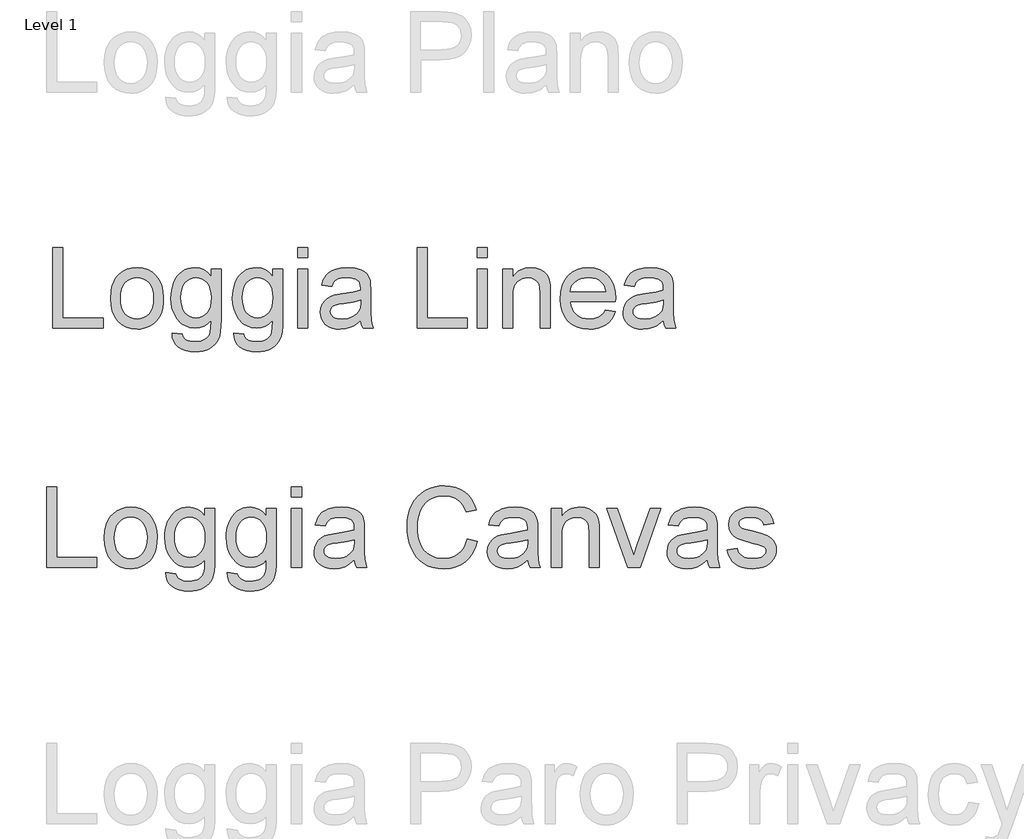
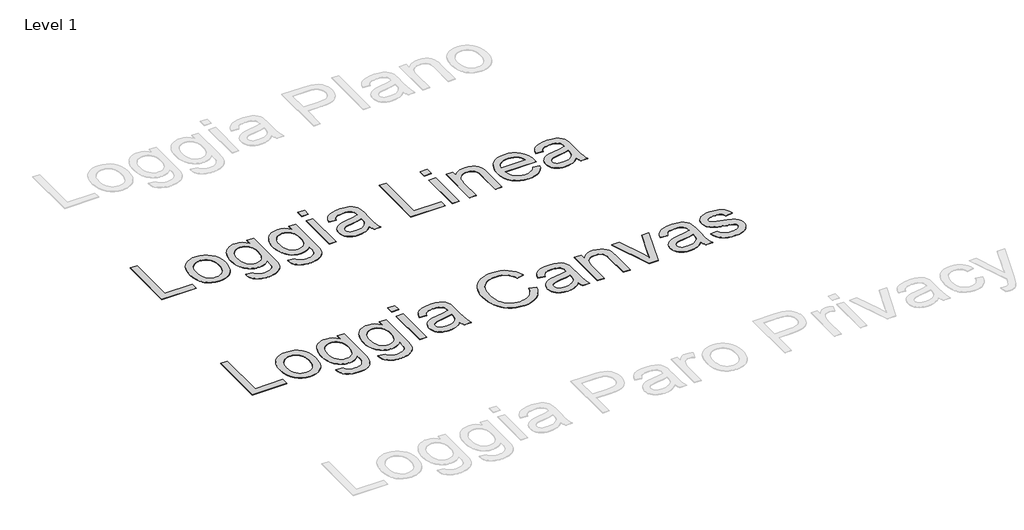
# One storey, part 11 of 80: 2 proxies.
"""IFC4 building model written with IfcOpenShell, lengths in millimetres."""

from ifc_helpers import new_model, si_unit, origin, origin_with_axes, place, context, project, spatial, polyline, outline, extrude, element, save

model = new_model("IFC4")

# Units and contexts
model_context = context("Model", 3, world=origin())
ifc_project = project(units=[si_unit("LENGTHUNIT", "METRE", prefix="MILLI")], contexts=[model_context])

# Site, building, storey
site = spatial("IfcSite", under=ifc_project)
building = spatial("IfcBuilding", under=site)
storey = spatial("IfcBuildingStorey", under=building, Name="Level 1", Elevation=0.0)

# Proxies
placement = place(None, origin())
element("IfcBuildingElementProxy", 1, Name="800mm Arial", ObjectType="800mm Arial", at=placement, inside=storey, context=model_context, shape_type="SweptSolid", body=[
    extrude(outline(polyline([(369965.6331768, -59119.2375007), (369965.6331768, -58319.8488024), (370065.556764, -58319.8488024), (370065.556764, -59019.3139134), (370465.2511132, -59019.3139134), (370465.2511132, -59119.2375007), (369965.6331768, -59119.2375007)])), origin_with_axes(), (0.0, 0.0, 1.0), 5.0),
    extrude(outline(polyline([(370540.1938037, -58825.7119631), (370545.5973864, -58749.683677), (370552.3518647, -58715.6124416), (370561.8081343, -58684.1698113), (370573.9661953, -58655.3557862), (370588.8260477, -58629.1703661), (370606.3876913, -58605.6135512), (370626.6511263, -58584.6853414), (370664.7323567, -58556.2524944), (370706.7656431, -58535.9433181), (370752.7509853, -58523.7578122), (370802.6883836, -58519.695977), (370857.8159047, -58524.6421458), (370907.6618201, -58539.4806521), (370952.22613, -58564.211496), (370991.5088342, -58598.8346775), (371023.5704979, -58642.1792169), (371046.4716863, -58693.0741349), (371060.2123993, -58751.5194314), (371064.792637, -58817.5151063), (371062.7678182, -58871.0020363), (371056.6933618, -58918.4633007), (371046.5692679, -58959.8988996), (371032.3955364, -58995.3088329), (371014.349034, -59025.8945745), (370992.6066275, -59052.8575981), (370967.1683168, -59076.1979038), (370938.0341019, -59095.9154916), (370906.3383693, -59111.5834418), (370873.2155054, -59122.7748348), (370838.6655101, -59129.4896705), (370802.6883836, -59131.7279491), (370746.7558141, -59126.8000769), (370696.4463859, -59112.0164602), (370651.760099, -59087.3770991), (370612.6969535, -59052.8819935), (370580.9768254, -59009.1166333), (370558.3195911, -58956.6665081), (370544.7252505, -58895.531618), (370540.1938037, -58825.7119631)]), holes=[polyline([(370640.117391, -58825.5167998), (370643.0082467, -58873.9843748), (370651.6808139, -58915.9505738), (370666.1350926, -58951.4153968), (370686.3710828, -58980.3788438), (370710.9860485, -59002.8775079), (370738.5772539, -59018.9479823), (370769.1446989, -59028.590267), (370802.6883836, -59031.8043618), (370836.0613004, -59028.5719704), (370866.5067684, -59018.8747961), (370894.0247876, -59002.7128389), (370918.6153579, -58980.0860989), (370938.8513481, -58950.8360058), (370953.3056267, -58914.8039896), (370961.9781939, -58871.9900502), (370964.8690497, -58822.3941877), (370961.9598974, -58775.4635234), (370953.2324405, -58734.5951177), (370938.6866791, -58699.7889707), (370918.322613, -58671.0450823), (370893.6405599, -58648.5464182), (370866.1408373, -58632.4759438), (370835.8234452, -58622.8336591), (370802.6883836, -58619.6195643), (370769.1446989, -58622.8214614), (370738.5772539, -58632.427153), (370710.9860485, -58648.4366388), (370686.3710828, -58670.8499191), (370666.1350926, -58699.7279822), (370651.6808139, -58735.1318167), (370643.0082467, -58777.0614225), (370640.117391, -58825.5167998)])]), origin_with_axes(), (0.0, 0.0, 1.0), 5.0),
    extrude(outline(polyline([(371152.2257759, -59169.1992944), (371252.1493631, -59181.6897428), (371256.3697686, -59198.5225737), (371263.1760871, -59212.9158638), (371272.5683189, -59224.8696133), (371284.5464637, -59234.383822), (371303.9286146, -59244.1175894), (371326.5553547, -59251.0702805), (371381.5426022, -59256.6324333), (371412.7443278, -59255.0589295), (371440.1891607, -59250.3384182), (371463.877101, -59242.4708995), (371483.8081485, -59231.4563732), (371500.3970253, -59217.599782), (371514.0584533, -59201.2060684), (371524.7924324, -59182.2752326), (371532.5989626, -59160.8072744), (371538.014743, -59117.8225671), (371539.4296766, -59044.2948103), (371506.1787368, -59077.0822373), (371469.0733227, -59100.5018281), (371428.1134342, -59114.5535826), (371383.2990715, -59119.2375007), (371328.5130861, -59113.7851273), (371280.2772675, -59097.4280068), (371258.6156707, -59085.1601665), (371238.5916157, -59070.1661394), (371203.4561307, -59031.9995251), (371175.5782793, -58986.2093461), (371155.6655283, -58936.0767846), (371143.7178776, -58881.6018406), (371139.7353274, -58822.7845142), (371141.522291, -58781.6355614), (371146.8831817, -58742.1089031), (371155.8179995, -58704.2045394), (371168.3267445, -58667.9224702), (371184.2203522, -58634.4702683), (371203.3097582, -58605.0555063), (371225.5949626, -58579.6781841), (371251.0759652, -58558.3383017), (371279.3441432, -58541.4322847), (371309.9908733, -58529.3565582), (371343.0161556, -58522.1111223), (371378.4199901, -58519.695977), (371425.1493923, -58525.1605482), (371467.5608074, -58541.5542617), (371505.6542356, -58568.8771176), (371539.4296766, -58607.1291159), (371539.4296766, -58532.1864254), (371639.3532639, -58532.1864254), (371639.3532639, -59039.0254023), (371637.6455854, -59102.5327458), (371632.5225499, -59156.05017), (371623.9841575, -59199.577675), (371612.030408, -59233.1152609), (371596.3746555, -59260.1636684), (371576.730254, -59284.2236386), (371553.0972034, -59305.2951715), (371525.4755038, -59323.378267), (371494.1457023, -59337.8935342), (371459.3883461, -59348.2615822), (371421.2034352, -59354.482411), (371379.5909696, -59356.5560206), (371330.6354865, -59353.6346706), (371286.6200733, -59344.8706206), (371247.5447301, -59330.2638706), (371213.4094567, -59309.8144206), (371185.8365479, -59283.4978753), (371166.4482982, -59251.2898391), (371155.2447075, -59213.1903121), (371152.2257759, -59169.1992944)]), holes=[polyline([(371239.6589147, -58815.9538002), (371242.324113, -58865.3605984), (371250.3197076, -58907.6073445), (371263.6456987, -58942.6940387), (371282.3020863, -58970.620681), (371304.983716, -58991.9239702), (371330.3854336, -59007.1406053), (371358.5072391, -59016.2705864), (371389.3491324, -59019.3139134), (371419.8860832, -59016.288883), (371447.8737139, -59007.2137915), (371473.3120246, -58992.0886392), (371496.2010153, -58970.9134258), (371515.1135546, -58943.2612319), (371528.6225113, -58908.7051379), (371536.7278853, -58867.2451436), (371539.4296766, -58818.8812491), (371536.6486002, -58772.5360745), (371528.305371, -58732.2531586), (371514.399989, -58698.0325014), (371494.9324542, -58669.8741028), (371471.5494565, -58647.8877422), (371445.897686, -58632.1831989), (371417.9771426, -58622.7604729), (371387.7878264, -58619.6195643), (371358.1047148, -58622.7116821), (371330.7269693, -58631.9880356), (371305.6545897, -58647.4486249), (371282.887576, -58669.0934498), (371263.9750367, -58696.8249287), (371250.4660801, -58730.5454801), (371242.3607061, -58770.255104), (371239.6589147, -58815.9538002)])]), origin_with_axes(), (0.0, 0.0, 1.0), 5.0),
    extrude(outline(polyline([(371764.257748, -59169.1992944), (371864.1813353, -59181.6897428), (371868.4017407, -59198.5225737), (371875.2080593, -59212.9158638), (371884.600291, -59224.8696133), (371896.5784359, -59234.383822), (371915.9605868, -59244.1175894), (371938.5873268, -59251.0702805), (371993.5745743, -59256.6324333), (372024.7763, -59255.0589295), (372052.2211329, -59250.3384182), (372075.9090731, -59242.4708995), (372095.8401207, -59231.4563732), (372112.4289975, -59217.599782), (372126.0904254, -59201.2060684), (372136.8244046, -59182.2752326), (372144.6309348, -59160.8072744), (372150.0467152, -59117.8225671), (372151.4616488, -59044.2948103), (372118.210709, -59077.0822373), (372081.1052948, -59100.5018281), (372040.1454064, -59114.5535826), (371995.3310436, -59119.2375007), (371940.5450582, -59113.7851273), (371892.3092397, -59097.4280068), (371870.6476429, -59085.1601665), (371850.6235878, -59070.1661394), (371815.4881028, -59031.9995251), (371787.6102514, -58986.2093461), (371767.6975004, -58936.0767846), (371755.7498498, -58881.6018406), (371751.7672996, -58822.7845142), (371753.5542632, -58781.6355614), (371758.9151539, -58742.1089031), (371767.8499717, -58704.2045394), (371780.3587167, -58667.9224702), (371796.2523244, -58634.4702683), (371815.3417304, -58605.0555063), (371837.6269347, -58579.6781841), (371863.1079374, -58558.3383017), (371891.3761153, -58541.4322847), (371922.0228454, -58529.3565582), (371955.0481277, -58522.1111223), (371990.4519622, -58519.695977), (372037.1813644, -58525.1605482), (372079.5927796, -58541.5542617), (372117.6862077, -58568.8771176), (372151.4616488, -58607.1291159), (372151.4616488, -58532.1864254), (372251.3852361, -58532.1864254), (372251.3852361, -59039.0254023), (372249.6775576, -59102.5327458), (372244.5545221, -59156.05017), (372236.0161296, -59199.577675), (372224.0623802, -59233.1152609), (372208.4066277, -59260.1636684), (372188.7622262, -59284.2236386), (372165.1291756, -59305.2951715), (372137.5074759, -59323.378267), (372106.1776744, -59337.8935342), (372071.4203182, -59348.2615822), (372033.2354073, -59354.482411), (371991.6229418, -59356.5560206), (371942.6674587, -59353.6346706), (371898.6520455, -59344.8706206), (371859.5767022, -59330.2638706), (371825.4414289, -59309.8144206), (371797.8685201, -59283.4978753), (371778.4802703, -59251.2898391), (371767.2766796, -59213.1903121), (371764.257748, -59169.1992944)]), holes=[polyline([(371851.6908869, -58815.9538002), (371854.3560851, -58865.3605984), (371862.3516798, -58907.6073445), (371875.6776709, -58942.6940387), (371894.3340584, -58970.620681), (371917.0156881, -58991.9239702), (371942.4174057, -59007.1406053), (371970.5392112, -59016.2705864), (372001.3811046, -59019.3139134), (372031.9180554, -59016.288883), (372059.9056861, -59007.2137915), (372085.3439968, -58992.0886392), (372108.2329875, -58970.9134258), (372127.1455268, -58943.2612319), (372140.6544835, -58908.7051379), (372148.7598575, -58867.2451436), (372151.4616488, -58818.8812491), (372148.6805724, -58772.5360745), (372140.3373432, -58732.2531586), (372126.4319611, -58698.0325014), (372106.9644263, -58669.8741028), (372083.5814287, -58647.8877422), (372057.9296581, -58632.1831989), (372030.0091148, -58622.7604729), (371999.8197985, -58619.6195643), (371970.136687, -58622.7116821), (371942.7589414, -58631.9880356), (371917.6865618, -58647.4486249), (371894.9195482, -58669.0934498), (371876.0070089, -58696.8249287), (371862.4980522, -58730.5454801), (371854.3926782, -58770.255104), (371851.6908869, -58815.9538002)])]), origin_with_axes(), (0.0, 0.0, 1.0), 5.0),
    extrude(outline(polyline([(372401.270617, -59119.2375007), (372401.270617, -58532.1864254), (372501.1942043, -58532.1864254), (372501.1942043, -59119.2375007), (372401.270617, -59119.2375007)])), origin_with_axes(), (0.0, 0.0, 1.0), 5.0),
    extrude(outline(polyline([(372401.270617, -58419.7723897), (372401.270617, -58319.8488024), (372501.1942043, -58319.8488024), (372501.1942043, -58419.7723897), (372401.270617, -58419.7723897)])), origin_with_axes(), (0.0, 0.0, 1.0), 5.0),
    extrude(outline(polyline([(373025.7930376, -59044.2948103), (372978.051226, -59085.2303033), (372953.6497201, -59100.3920488), (372928.8944808, -59112.0164602), (372877.2006132, -59126.8000769), (372821.8474346, -59131.7279491), (372777.356311, -59128.7639072), (372738.3419563, -59119.8717813), (372704.8043704, -59105.0515715), (372676.7435535, -59084.3032778), (372654.586425, -59058.9442522), (372638.7599047, -59030.2918466), (372629.2639925, -58998.3460611), (372626.0986884, -58963.1068956), (372630.8801882, -58921.6834944), (372645.2246876, -58884.0657767), (372667.3513218, -58851.8638394), (372695.4792261, -58826.6877793), (372728.5350026, -58807.6593618), (372765.4452535, -58793.9003523), (372851.9025761, -58778.8727815), (372954.0705409, -58763.0645577), (373025.2075478, -58744.5240484), (373025.7930376, -58722.2754372), (373024.0731614, -58698.0507979), (373018.9135328, -58677.6806331), (373010.3141518, -58661.1649425), (372998.2750184, -58648.5037262), (372977.4657362, -58635.8669054), (372952.1189083, -58626.8406048), (372922.2345347, -58621.4248244), (372887.8126153, -58619.6195643), (372828.2878221, -58624.4254595), (372805.2585578, -58630.4328284), (372786.7180485, -58638.843145), (372771.4831168, -58650.3150852), (372758.3705855, -58665.5073249), (372747.3804546, -58684.4198643), (372738.5127241, -58707.0527031), (372638.5891368, -58694.5622547), (372655.9342713, -58639.9165429), (372667.8087356, -58616.9848603), (372681.8177981, -58596.9806265), (372698.5652451, -58579.5013174), (372718.6548628, -58564.1444086), (372742.0866513, -58550.9099003), (372768.8606105, -58539.7977924), (372830.2638501, -58524.7214308), (372900.6933902, -58519.695977), (372968.2442724, -58524.1359411), (373021.7921908, -58537.4558333), (373062.1665895, -58557.4844625), (373090.1969122, -58582.0506374), (373108.7862124, -58612.4229192), (373120.8375435, -58649.869869), (373124.4968545, -58684.4137654), (373125.7166249, -58737.3030079), (373125.7166249, -58861.6220022), (373126.9851861, -58969.9132142), (373130.7908696, -59035.2197188), (373138.3046549, -59078.1312398), (373150.6975217, -59119.2375007), (373050.7739344, -59119.2375007), (373034.7705474, -59084.4984411), (373025.7930376, -59044.2948103)]), holes=[polyline([(373025.7930376, -58844.4476357), (372958.6568774, -58861.0853033), (372864.5881878, -58875.0882669), (372812.7479478, -58882.7484248), (372778.6187733, -58891.2868172), (372756.2481851, -58902.362332), (372739.6837037, -58917.6338568), (372729.4376327, -58935.9304121), (372726.0222757, -58956.0810184), (372727.8824255, -58971.6086949), (372733.4628749, -58985.7946241), (372742.7636238, -58998.638806), (372755.7846723, -59010.1412404), (372772.4040434, -59019.618856), (372792.4997599, -59026.3885815), (372843.1202296, -59031.8043618), (372896.7901251, -59025.8274871), (372921.2831138, -59018.3563937), (372944.2147964, -59007.8968629), (372982.6619579, -58981.4766371), (373009.3993241, -58950.0309574), (373021.2554919, -58917.6338568), (373025.2075478, -58872.7463079), (373025.7930376, -58844.4476357)])]), origin_with_axes(), (0.0, 0.0, 1.0), 5.0),
    extrude(outline(polyline([(374149.9333946, -58835.0797994), (374249.8569819, -58860.8413492), (374230.0845045, -58922.9825498), (374203.7496626, -58977.2806271), (374170.8524562, -59023.735581), (374131.3928853, -59062.3474115), (374086.2613822, -59092.7013967), (374036.3483794, -59114.3828147), (373981.6538768, -59127.3916655), (373922.1778744, -59131.7279491), (373861.2442464, -59128.4467669), (373806.2752955, -59118.6032201), (373757.2710216, -59102.1973089), (373714.2314247, -59079.2290332), (373676.5649162, -59050.0399286), (373643.6799075, -59014.971531), (373615.5763985, -58974.0238402), (373592.2543894, -58927.1968564), (373573.9395375, -58876.5153982), (373560.8575005, -58824.0042846), (373553.0082783, -58769.6635154), (373550.3918709, -58713.4930906), (373553.349814, -58653.2242375), (373562.2236433, -58596.9318357), (373577.0133588, -58544.6158853), (373597.7189606, -58496.2763862), (373623.8769358, -58452.7122881), (373655.0237717, -58414.7225404), (373691.1594684, -58382.3071433), (373732.2840259, -58355.4660967), (373777.000807, -58334.4189593), (373823.9131748, -58319.3852897), (373873.0211292, -58310.3650879), (373924.3246702, -58307.358354), (373981.4770101, -58311.2494214), (374033.8844433, -58322.9226237), (374081.5469698, -58342.3779608), (374124.4645897, -58369.6154328), (374161.9298361, -58403.9153751), (374193.2352422, -58444.5581232), (374218.380808, -58491.5436772), (374237.3665335, -58544.8720371), (374137.4429462, -58568.6819543), (374121.7079087, -58529.3870524), (374102.8014682, -58495.8128735), (374080.7236248, -58467.9594175), (374055.4743785, -58445.8266844), (374026.9073569, -58428.9633593), (373994.8761874, -58416.9181271), (373959.3808701, -58409.6909877), (373920.4214051, -58407.2819413), (373875.5948446, -58409.9532383), (373834.5983631, -58417.9671296), (373797.4319604, -58431.3236149), (373764.0956367, -58450.0226944), (373735.0102126, -58473.2227265), (373710.596509, -58500.0820697), (373690.8545258, -58530.6007239), (373675.7842631, -58564.7786892), (373664.641661, -58601.0668572), (373656.6826594, -58637.9161196), (373651.9072585, -58675.3264763), (373650.3154582, -58713.2979274), (373652.2000034, -58761.0153436), (373657.853639, -58805.6101476), (373667.2763649, -58847.0823396), (373680.4681813, -58885.4319195), (373697.6425479, -58919.8965308), (373719.0129244, -58949.7138171), (373744.579311, -58974.8837783), (373774.3417076, -58995.4064145), (373806.8546864, -59011.3305165), (373840.6728194, -59022.704875), (373875.7961067, -59029.5294901), (373912.2245483, -59031.8043618), (373955.6666694, -59028.7061452), (373995.632445, -59019.4114951), (374032.1218751, -59003.9204116), (374065.1349597, -58982.2328947), (374093.8910458, -58954.4465261), (374117.6094803, -58920.6588873), (374136.2902632, -58880.8699784), (374149.9333946, -58835.0797994)])), origin_with_axes(), (0.0, 0.0, 1.0), 5.0),
    extrude(outline(polyline([(374749.4749184, -59044.2948103), (374701.7331068, -59085.2303033), (374677.3316009, -59100.3920488), (374652.5763616, -59112.0164602), (374600.882494, -59126.8000769), (374545.5293154, -59131.7279491), (374501.0381918, -59128.7639072), (374462.0238371, -59119.8717813), (374428.4862512, -59105.0515715), (374400.4254343, -59084.3032778), (374378.2683058, -59058.9442522), (374362.4417855, -59030.2918466), (374352.9458733, -58998.3460611), (374349.7805692, -58963.1068956), (374354.562069, -58921.6834944), (374368.9065684, -58884.0657767), (374391.0332026, -58851.8638394), (374419.1611069, -58826.6877793), (374452.2168834, -58807.6593618), (374489.1271343, -58793.9003523), (374575.5844569, -58778.8727815), (374677.7524217, -58763.0645577), (374748.8894286, -58744.5240484), (374749.4749184, -58722.2754372), (374747.7550422, -58698.0507979), (374742.5954136, -58677.6806331), (374733.9960326, -58661.1649425), (374721.9568992, -58648.5037262), (374701.147617, -58635.8669054), (374675.8007891, -58626.8406048), (374645.9164155, -58621.4248244), (374611.4944961, -58619.6195643), (374551.9697029, -58624.4254595), (374528.9404386, -58630.4328284), (374510.3999293, -58638.843145), (374495.1649976, -58650.3150852), (374482.0524663, -58665.5073249), (374471.0623354, -58684.4198643), (374462.1946049, -58707.0527031), (374362.2710176, -58694.5622547), (374379.6161521, -58639.9165429), (374391.4906164, -58616.9848603), (374405.4996789, -58596.9806265), (374422.2471259, -58579.5013174), (374442.3367436, -58564.1444086), (374465.7685321, -58550.9099003), (374492.5424913, -58539.7977924), (374553.9457309, -58524.7214308), (374624.375271, -58519.695977), (374691.9261532, -58524.1359411), (374745.4740716, -58537.4558333), (374785.8484703, -58557.4844625), (374813.878793, -58582.0506374), (374832.4680932, -58612.4229192), (374844.5194243, -58649.869869), (374848.1787353, -58684.4137654), (374849.3985057, -58737.3030079), (374849.3985057, -58861.6220022), (374850.6670669, -58969.9132142), (374854.4727504, -59035.2197188), (374861.9865357, -59078.1312398), (374874.3794025, -59119.2375007), (374774.4558152, -59119.2375007), (374758.4524282, -59084.4984411), (374749.4749184, -59044.2948103)]), holes=[polyline([(374749.4749184, -58844.4476357), (374682.3387582, -58861.0853033), (374588.2700686, -58875.0882669), (374536.4298286, -58882.7484248), (374502.3006541, -58891.2868172), (374479.9300659, -58902.362332), (374463.3655845, -58917.6338568), (374453.1195135, -58935.9304121), (374449.7041565, -58956.0810184), (374451.5643063, -58971.6086949), (374457.1447557, -58985.7946241), (374466.4455046, -58998.638806), (374479.4665531, -59010.1412404), (374496.0859242, -59019.618856), (374516.1816407, -59026.3885815), (374566.8021104, -59031.8043618), (374620.4720059, -59025.8274871), (374644.9649946, -59018.3563937), (374667.8966772, -59007.8968629), (374706.3438387, -58981.4766371), (374733.0812049, -58950.0309574), (374744.9373727, -58917.6338568), (374748.8894286, -58872.7463079), (374749.4749184, -58844.4476357)])]), origin_with_axes(), (0.0, 0.0, 1.0), 5.0),
    extrude(outline(polyline([(374986.7934382, -59119.2375007), (374986.7934382, -58532.1864254), (375086.7170255, -58532.1864254), (375086.7170255, -58614.1549931), (375103.2022218, -58592.0161612), (375121.4316897, -58572.8291735), (375141.4054293, -58556.5940301), (375163.1234404, -58543.310731), (375186.5857231, -58532.9792761), (375211.7922775, -58525.5996655), (375267.438201, -58519.695977), (375316.6925278, -58524.4530814), (375361.7996354, -58538.7243945), (375399.4173531, -58560.7290516), (375426.2035101, -58588.6861881), (375444.3780883, -58622.5226177), (375456.1610699, -58662.1651542), (375460.1131259, -58700.0756167), (375461.4304779, -58758.7709661), (375461.4304779, -59119.2375007), (375361.5068906, -59119.2375007), (375361.5068906, -58772.2372308), (375358.6282325, -58720.5677587), (375349.9922584, -58683.8282756), (375334.0620576, -58657.5056314), (375309.3007195, -58637.0866757), (375277.5622949, -58623.9863421), (375240.7008348, -58619.6195643), (375210.3590473, -58622.0713027), (375182.1762533, -58629.4265179), (375156.1524528, -58641.6852099), (375132.2876459, -58658.8473788), (375112.3504995, -58682.8646571), (375098.1096806, -58715.6886772), (375089.5651893, -58757.3194394), (375086.7170255, -58807.7569435), (375086.7170255, -59119.2375007), (374986.7934382, -59119.2375007)])), origin_with_axes(), (0.0, 0.0, 1.0), 5.0),
    extrude(outline(polyline([(375742.8558936, -59119.2375007), (375536.3731683, -58532.1864254), (375642.1516533, -58532.1864254), (375767.2513007, -58883.8706135), (375804.9178092, -59002.1395469), (375841.8036646, -58890.5061642), (375967.683965, -58532.1864254), (376073.46245, -58532.1864254), (375869.5168471, -59119.2375007), (375742.8558936, -59119.2375007)])), origin_with_axes(), (0.0, 0.0, 1.0), 5.0),
    extrude(outline(polyline([(376535.6090413, -59044.2948103), (376487.8672296, -59085.2303033), (376463.4657237, -59100.3920488), (376438.7104844, -59112.0164602), (376387.0166169, -59126.8000769), (376331.6634383, -59131.7279491), (376287.1723147, -59128.7639072), (376248.1579599, -59119.8717813), (376214.6203741, -59105.0515715), (376186.5595571, -59084.3032778), (376164.4024287, -59058.9442522), (376148.5759083, -59030.2918466), (376139.0799961, -58998.3460611), (376135.9146921, -58963.1068956), (376140.6961919, -58921.6834944), (376155.0406912, -58884.0657767), (376177.1673254, -58851.8638394), (376205.2952297, -58826.6877793), (376238.3510063, -58807.6593618), (376275.2612572, -58793.9003523), (376361.7185798, -58778.8727815), (376463.8865445, -58763.0645577), (376535.0235515, -58744.5240484), (376535.6090413, -58722.2754372), (376533.8891651, -58698.0507979), (376528.7295365, -58677.6806331), (376520.1301555, -58661.1649425), (376508.0910221, -58648.5037262), (376487.2817399, -58635.8669054), (376461.934912, -58626.8406048), (376432.0505383, -58621.4248244), (376397.628619, -58619.6195643), (376338.1038257, -58624.4254595), (376315.0745615, -58630.4328284), (376296.5340521, -58638.843145), (376281.2991204, -58650.3150852), (376268.1865891, -58665.5073249), (376257.1964583, -58684.4198643), (376248.3287278, -58707.0527031), (376148.4051405, -58694.5622547), (376165.7502749, -58639.9165429), (376177.6247393, -58616.9848603), (376191.6338018, -58596.9806265), (376208.3812487, -58579.5013174), (376228.4708664, -58564.1444086), (376251.9026549, -58550.9099003), (376278.6766142, -58539.7977924), (376340.0798537, -58524.7214308), (376410.5093939, -58519.695977), (376478.060276, -58524.1359411), (376531.6081945, -58537.4558333), (376571.9825932, -58557.4844625), (376600.0129159, -58582.0506374), (376618.6022161, -58612.4229192), (376630.6535471, -58649.869869), (376634.3128582, -58684.4137654), (376635.5326285, -58737.3030079), (376635.5326285, -58861.6220022), (376636.8011897, -58969.9132142), (376640.6068732, -59035.2197188), (376648.1206586, -59078.1312398), (376660.5135254, -59119.2375007), (376560.5899381, -59119.2375007), (376544.586551, -59084.4984411), (376535.6090413, -59044.2948103)]), holes=[polyline([(376535.6090413, -58844.4476357), (376468.472881, -58861.0853033), (376374.4041914, -58875.0882669), (376322.5639515, -58882.7484248), (376288.434777, -58891.2868172), (376266.0641887, -58902.362332), (376249.4997073, -58917.6338568), (376239.2536364, -58935.9304121), (376235.8382794, -58956.0810184), (376237.6984292, -58971.6086949), (376243.2788785, -58985.7946241), (376252.5796275, -58998.638806), (376265.600676, -59010.1412404), (376282.220047, -59019.618856), (376302.3157636, -59026.3885815), (376352.9362332, -59031.8043618), (376406.6061288, -59025.8274871), (376431.0991174, -59018.3563937), (376454.0308001, -59007.8968629), (376492.4779616, -58981.4766371), (376519.2153277, -58950.0309574), (376531.0714955, -58917.6338568), (376535.0235515, -58872.7463079), (376535.6090413, -58844.4476357)])]), origin_with_axes(), (0.0, 0.0, 1.0), 5.0),
    extrude(outline(polyline([(376735.4562158, -58944.371223), (376835.3798031, -58931.8807746), (376841.4176664, -58954.6660847), (376851.1392361, -58974.6215277), (376864.5445123, -58991.7471035), (376881.6334949, -59006.042812), (376902.4549748, -59017.3134901), (376927.0577428, -59025.3639744), (376955.4417989, -59030.194265), (376987.6071431, -59031.8043618), (377019.7358942, -59030.3284397), (377047.4246812, -59025.9006733), (377070.6735042, -59018.5210627), (377089.482363, -59008.1896078), (377103.9976302, -58995.8699273), (377114.3656782, -58982.5256396), (377120.586507, -58968.1567448), (377122.6601166, -58952.763243), (377120.5743093, -58939.2725829), (377114.3168874, -58927.294438), (377103.8878509, -58916.8288084), (377089.2871997, -58907.875694), (377051.8646453, -58895.1900823), (376986.4361636, -58879.3818586), (376895.246132, -58853.0104236), (376835.9652929, -58830.4934628), (376797.8840625, -58805.9272879), (376782.7772067, -58790.661862), (376770.2928571, -58773.4082103), (376753.5332125, -58735.0098396), (376747.9466643, -58692.8057854), (376752.4354191, -58654.0902744), (376765.9016838, -58618.3510031), (376787.125688, -58587.002905), (376814.8876612, -58561.4609139), (376842.4788666, -58545.3843406), (376878.4133012, -58531.8936805), (376919.9586794, -58522.7454029), (376964.3827156, -58519.695977), (377029.4208708, -58524.5994538), (377085.9694244, -58539.3098842), (377131.4424631, -58562.3879393), (377149.055947, -58576.5250777), (377163.2540739, -58592.39429), (377184.3317056, -58631.5489183), (377197.6028071, -58682.0718063), (377097.6792198, -58694.5622547), (377092.9160165, -58677.8696975), (377085.0667943, -58663.116575), (377074.1315531, -58650.3028875), (377060.1102929, -58639.4286348), (377042.9420252, -58630.7621664), (377022.5657615, -58624.5718319), (376972.1892459, -58619.6195643), (376914.8112485, -58624.3522732), (376893.2944995, -58630.2681594), (376876.5592502, -58638.5504001), (376855.0425012, -58659.0425421), (376849.663314, -58670.4595926), (376847.8702515, -58682.6572961), (376850.8464912, -58698.0264025), (376859.7752102, -58711.7366213), (376875.046735, -58723.9831156), (376897.0513922, -58733.7900693), (376983.1183883, -58755.0628642), (377071.4053664, -58781.1659498), (377129.7835755, -58802.097209), (377168.5234819, -58824.5897743), (377197.895552, -58855.376778), (377208.6966184, -58873.9050897), (377216.4116659, -58894.5558018), (377221.0406944, -58917.3289142), (377222.5837039, -58942.2244271), (377220.7723449, -58967.2297194), (377215.338268, -58991.5031494), (377206.2814731, -59015.0447172), (377193.6019603, -59037.8544228), (377177.5070905, -59059.0235373), (377158.2042247, -59077.6433317), (377135.6933628, -59093.7138061), (377109.9745049, -59107.2349605), (377081.749019, -59117.950643), (377051.7182729, -59125.604702), (377019.8822667, -59130.1971374), (376986.2410004, -59131.7279491), (376932.4613255, -59128.7761049), (376885.4879692, -59119.9205721), (376845.3209315, -59105.1613509), (376811.9602124, -59084.4984411), (376784.7105427, -59058.0294244), (376762.8766534, -59025.8518825), (376746.4585444, -58987.9658154), (376735.4562158, -58944.371223)])), origin_with_axes(), (0.0, 0.0, 1.0), 5.0),
])
element("IfcBuildingElementProxy", 2, Name="800mm Arial", ObjectType="800mm Arial", at=placement, inside=storey, context=model_context, shape_type="SweptSolid", body=[
    extrude(outline(polyline([(370028.0854188, -56735.6052221), (370028.0854188, -55936.2165237), (370128.0090061, -55936.2165237), (370128.0090061, -56635.6816348), (370527.7033553, -56635.6816348), (370527.7033553, -56735.6052221), (370028.0854188, -56735.6052221)])), origin_with_axes(), (0.0, 0.0, 1.0), 5.0),
    extrude(outline(polyline([(370602.6460457, -56442.0796844), (370608.0496284, -56366.0513983), (370614.8041067, -56331.9801629), (370624.2603764, -56300.5375327), (370636.4184374, -56271.7235075), (370651.2782897, -56245.5380875), (370668.8399334, -56221.9812725), (370689.1033683, -56201.0530627), (370727.1845988, -56172.6202158), (370769.2178851, -56152.3110394), (370815.2032274, -56140.1255336), (370865.1406256, -56136.0636983), (370920.2681467, -56141.0098671), (370970.1140622, -56155.8483734), (371014.678372, -56180.5792173), (371053.9610762, -56215.2023988), (371086.02274, -56258.5469383), (371108.9239283, -56309.4418562), (371122.6646414, -56367.8871527), (371127.244879, -56433.8828276), (371125.2200602, -56487.3697576), (371119.1456039, -56534.831022), (371109.02151, -56576.2666209), (371094.8477785, -56611.6765542), (371076.8012761, -56642.2622958), (371055.0588696, -56669.2253195), (371029.6205589, -56692.5656252), (371000.486344, -56712.2832129), (370968.7906114, -56727.9511631), (370935.6677474, -56739.1425561), (370901.1177522, -56745.8573919), (370865.1406256, -56748.0956705), (370809.2080561, -56743.1677982), (370758.8986279, -56728.3841816), (370714.2123411, -56703.7448204), (370675.1491955, -56669.2497149), (370643.4290675, -56625.4843546), (370620.7718332, -56573.0342295), (370607.1774926, -56511.8993394), (370602.6460457, -56442.0796844)]), holes=[polyline([(370702.569633, -56441.8845211), (370705.4604888, -56490.3520961), (370714.133056, -56532.3182951), (370728.5873347, -56567.7831181), (370748.8233248, -56596.7465651), (370773.4382905, -56619.2452293), (370801.0294959, -56635.3157037), (370831.5969409, -56644.9579883), (370865.1406256, -56648.1720832), (370898.5135425, -56644.9396917), (370928.9590105, -56635.2425174), (370956.4770297, -56619.0805603), (370981.0676, -56596.4538202), (371001.3035901, -56567.2037272), (371015.7578688, -56531.1717109), (371024.430436, -56488.3577716), (371027.3212917, -56438.761909), (371024.4121394, -56391.8312447), (371015.6846826, -56350.962839), (371001.1389211, -56316.156692), (370980.7748551, -56287.4128037), (370956.092802, -56264.9141395), (370928.5930794, -56248.8436651), (370898.2756873, -56239.2013805), (370865.1406256, -56235.9872856), (370831.5969409, -56239.1891828), (370801.0294959, -56248.7948743), (370773.4382905, -56264.8043602), (370748.8233248, -56287.2176404), (370728.5873347, -56316.0957035), (370714.133056, -56351.499538), (370705.4604888, -56393.4291439), (370702.569633, -56441.8845211)])]), origin_with_axes(), (0.0, 0.0, 1.0), 5.0),
    extrude(outline(polyline([(371214.6780179, -56785.5670157), (371314.6016052, -56798.0574641), (371318.8220106, -56814.890295), (371325.6283292, -56829.2835851), (371335.0205609, -56841.2373346), (371346.9987058, -56850.7515434), (371366.3808567, -56860.4853108), (371389.0075967, -56867.4380018), (371443.9948442, -56873.0001546), (371475.1965698, -56871.4266508), (371502.6414028, -56866.7061396), (371526.329343, -56858.8386208), (371546.2603906, -56847.8240945), (371562.8492674, -56833.9675033), (371576.5106953, -56817.5737898), (371587.2446744, -56798.6429539), (371595.0512047, -56777.1749957), (371600.4669851, -56734.1902884), (371601.8819187, -56660.6625316), (371568.6309789, -56693.4499587), (371531.5255647, -56716.8695494), (371490.5656763, -56730.9213039), (371445.7513135, -56735.6052221), (371390.9653281, -56730.1528486), (371342.7295095, -56713.7957282), (371321.0679128, -56701.5278878), (371301.0438577, -56686.5338608), (371265.9083727, -56648.3672464), (371238.0305213, -56602.5770674), (371218.1177703, -56552.4445059), (371206.1701197, -56497.9695619), (371202.1875695, -56439.1522355), (371203.9745331, -56398.0032827), (371209.3354238, -56358.4766244), (371218.2702416, -56320.5722607), (371230.7789866, -56284.2901916), (371246.6725943, -56250.8379896), (371265.7620003, -56221.4232276), (371288.0472046, -56196.0459054), (371313.5282073, -56174.7060231), (371341.7963852, -56157.800006), (371372.4431153, -56145.7242795), (371405.4683976, -56138.4788436), (371440.8722321, -56136.0636983), (371487.6016343, -56141.5282695), (371530.0130495, -56157.921983), (371568.1064776, -56185.2448389), (371601.8819187, -56223.4968372), (371601.8819187, -56148.5541467), (371701.805506, -56148.5541467), (371701.805506, -56655.3931237), (371700.0978275, -56718.9004671), (371694.974792, -56772.4178913), (371686.4363995, -56815.9453963), (371674.4826501, -56849.4829822), (371658.8268976, -56876.5313898), (371639.1824961, -56900.59136), (371615.5494455, -56921.6628928), (371587.9277458, -56939.7459883), (371556.5979443, -56954.2612555), (371521.8405881, -56964.6293035), (371483.6556772, -56970.8501323), (371442.0432117, -56972.9237419), (371393.0877286, -56970.0023919), (371349.0723154, -56961.2383419), (371309.9969721, -56946.6315919), (371275.8616988, -56926.182142), (371248.28879, -56899.8655966), (371228.9005402, -56867.6575604), (371217.6969495, -56829.5580335), (371214.6780179, -56785.5670157)]), holes=[polyline([(371302.1111568, -56432.3215216), (371304.776355, -56481.7283197), (371312.7719497, -56523.9750659), (371326.0979408, -56559.0617601), (371344.7543283, -56586.9884023), (371367.435958, -56608.2916915), (371392.8376756, -56623.5083266), (371420.9594811, -56632.6383077), (371451.8013745, -56635.6816348), (371482.3383253, -56632.6566043), (371510.325956, -56623.5815129), (371535.7642667, -56608.4563605), (371558.6532574, -56587.2811472), (371577.5657967, -56559.6289533), (371591.0747533, -56525.0728592), (371599.1801273, -56483.6128649), (371601.8819187, -56435.2489704), (371599.1008423, -56388.9037959), (371590.7576131, -56348.62088), (371576.852231, -56314.4002227), (371557.3846962, -56286.2418241), (371534.0016985, -56264.2554635), (371508.349928, -56248.5509202), (371480.4293847, -56239.1281943), (371450.2400684, -56235.9872856), (371420.5569569, -56239.0794034), (371393.1792113, -56248.355757), (371368.1068317, -56263.8163462), (371345.3398181, -56285.4611711), (371326.4272788, -56313.1926501), (371312.9183221, -56346.9132015), (371304.8129481, -56386.6228253), (371302.1111568, -56432.3215216)])]), origin_with_axes(), (0.0, 0.0, 1.0), 5.0),
    extrude(outline(polyline([(371826.7099901, -56785.5670157), (371926.6335774, -56798.0574641), (371930.8539828, -56814.890295), (371937.6603014, -56829.2835851), (371947.0525331, -56841.2373346), (371959.0306779, -56850.7515434), (371978.4128288, -56860.4853108), (372001.0395689, -56867.4380018), (372056.0268164, -56873.0001546), (372087.228542, -56871.4266508), (372114.6733749, -56866.7061396), (372138.3613152, -56858.8386208), (372158.2923628, -56847.8240945), (372174.8812396, -56833.9675033), (372188.5426675, -56817.5737898), (372199.2766466, -56798.6429539), (372207.0831769, -56777.1749957), (372212.4989572, -56734.1902884), (372213.9138908, -56660.6625316), (372180.662951, -56693.4499587), (372143.5575369, -56716.8695494), (372102.5976485, -56730.9213039), (372057.7832857, -56735.6052221), (372002.9973003, -56730.1528486), (371954.7614817, -56713.7957282), (371933.099885, -56701.5278878), (371913.0758299, -56686.5338608), (371877.9403449, -56648.3672464), (371850.0624935, -56602.5770674), (371830.1497425, -56552.4445059), (371818.2020919, -56497.9695619), (371814.2195417, -56439.1522355), (371816.0065052, -56398.0032827), (371821.3673959, -56358.4766244), (371830.3022138, -56320.5722607), (371842.8109587, -56284.2901916), (371858.7045664, -56250.8379896), (371877.7939725, -56221.4232276), (371900.0791768, -56196.0459054), (371925.5601795, -56174.7060231), (371953.8283574, -56157.800006), (371984.4750875, -56145.7242795), (372017.5003698, -56138.4788436), (372052.9042043, -56136.0636983), (372099.6336065, -56141.5282695), (372142.0450217, -56157.921983), (372180.1384498, -56185.2448389), (372213.9138908, -56223.4968372), (372213.9138908, -56148.5541467), (372313.8374781, -56148.5541467), (372313.8374781, -56655.3931237), (372312.1297996, -56718.9004671), (372307.0067642, -56772.4178913), (372298.4683717, -56815.9453963), (372286.5146222, -56849.4829822), (372270.8588698, -56876.5313898), (372251.2144682, -56900.59136), (372227.5814176, -56921.6628928), (372199.959718, -56939.7459883), (372168.6299165, -56954.2612555), (372133.8725603, -56964.6293035), (372095.6876494, -56970.8501323), (372054.0751838, -56972.9237419), (372005.1197007, -56970.0023919), (371961.1042875, -56961.2383419), (371922.0289443, -56946.6315919), (371887.893671, -56926.182142), (371860.3207622, -56899.8655966), (371840.9325124, -56867.6575604), (371829.7289217, -56829.5580335), (371826.7099901, -56785.5670157)]), holes=[polyline([(371914.143129, -56432.3215216), (371916.8083272, -56481.7283197), (371924.8039218, -56523.9750659), (371938.1299129, -56559.0617601), (371956.7863005, -56586.9884023), (371979.4679302, -56608.2916915), (372004.8696478, -56623.5083266), (372032.9914533, -56632.6383077), (372063.8333466, -56635.6816348), (372094.3702974, -56632.6566043), (372122.3579282, -56623.5815129), (372147.7962389, -56608.4563605), (372170.6852295, -56587.2811472), (372189.5977689, -56559.6289533), (372203.1067255, -56525.0728592), (372211.2120995, -56483.6128649), (372213.9138908, -56435.2489704), (372211.1328144, -56388.9037959), (372202.7895852, -56348.62088), (372188.8842032, -56314.4002227), (372169.4166684, -56286.2418241), (372146.0336707, -56264.2554635), (372120.3819002, -56248.5509202), (372092.4613568, -56239.1281943), (372062.2720406, -56235.9872856), (372032.5889291, -56239.0794034), (372005.2111835, -56248.355757), (371980.1388039, -56263.8163462), (371957.3717903, -56285.4611711), (371938.4592509, -56313.1926501), (371924.9502943, -56346.9132015), (371916.8449203, -56386.6228253), (371914.143129, -56432.3215216)])]), origin_with_axes(), (0.0, 0.0, 1.0), 5.0),
    extrude(outline(polyline([(372463.7228591, -56735.6052221), (372463.7228591, -56148.5541467), (372563.6464464, -56148.5541467), (372563.6464464, -56735.6052221), (372463.7228591, -56735.6052221)])), origin_with_axes(), (0.0, 0.0, 1.0), 5.0),
    extrude(outline(polyline([(372463.7228591, -56036.140111), (372463.7228591, -55936.2165237), (372563.6464464, -55936.2165237), (372563.6464464, -56036.140111), (372463.7228591, -56036.140111)])), origin_with_axes(), (0.0, 0.0, 1.0), 5.0),
    extrude(outline(polyline([(373088.2452797, -56660.6625316), (373040.503468, -56701.5980246), (373016.1019621, -56716.7597701), (372991.3467228, -56728.3841816), (372939.6528553, -56743.1677982), (372884.2996767, -56748.0956705), (372839.8085531, -56745.1316285), (372800.7941983, -56736.2395026), (372767.2566125, -56721.4192929), (372739.1957955, -56700.6709992), (372717.0386671, -56675.3119735), (372701.2121467, -56646.6595679), (372691.7162345, -56614.7137824), (372688.5509305, -56579.4746169), (372693.3324303, -56538.0512157), (372707.6769296, -56500.4334981), (372729.8035638, -56468.2315607), (372757.9314681, -56443.0555007), (372790.9872447, -56424.0270832), (372827.8974956, -56410.2680736), (372914.3548182, -56395.2405028), (373016.5227829, -56379.4322791), (373087.6597899, -56360.8917697), (373088.2452797, -56338.6431585), (373086.5254035, -56314.4185193), (373081.3657749, -56294.0483544), (373072.7663939, -56277.5326638), (373060.7272605, -56264.8714475), (373039.9179783, -56252.2346267), (373014.5711504, -56243.2083261), (372984.6867767, -56237.7925457), (372950.2648574, -56235.9872856), (372890.7400641, -56240.7931808), (372867.7107999, -56246.8005498), (372849.1702905, -56255.2108664), (372833.9353588, -56266.6828065), (372820.8228275, -56281.8750463), (372809.8326967, -56300.7875856), (372800.9649662, -56323.4204245), (372701.0413789, -56310.9299761), (372718.3865133, -56256.2842643), (372730.2609777, -56233.3525816), (372744.2700402, -56213.3483478), (372761.0174871, -56195.8690387), (372781.1071048, -56180.51213), (372804.5388933, -56167.2776216), (372831.3128526, -56156.1655137), (372892.7160921, -56141.0891522), (372963.1456323, -56136.0636983), (373030.6965144, -56140.5036624), (373084.2444329, -56153.8235546), (373124.6188316, -56173.8521838), (373152.6491543, -56198.4183587), (373171.2384545, -56228.7906405), (373183.2897855, -56266.2375903), (373186.9490966, -56300.7814867), (373188.1688669, -56353.6707292), (373188.1688669, -56477.9897236), (373189.4374281, -56586.2809355), (373193.2431116, -56651.5874402), (373200.756897, -56694.4989612), (373213.1497638, -56735.6052221), (373113.2261765, -56735.6052221), (373097.2227894, -56700.8661624), (373088.2452797, -56660.6625316)]), holes=[polyline([(373088.2452797, -56460.815357), (373021.1091194, -56477.4530246), (372927.0404298, -56491.4559883), (372875.2001899, -56499.1161461), (372841.0710154, -56507.6545385), (372818.7004271, -56518.7300533), (372802.1359457, -56534.0015782), (372791.8898748, -56552.2981335), (372788.4745178, -56572.4487397), (372790.3346676, -56587.9764163), (372795.9151169, -56602.1623455), (372805.2158659, -56615.0065273), (372818.2369144, -56626.5089617), (372834.8562854, -56635.9865774), (372854.952002, -56642.7563028), (372905.5724716, -56648.1720832), (372959.2423672, -56642.1952084), (372983.7353558, -56634.724115), (373006.6670385, -56624.2645843), (373045.1142, -56597.8443584), (373071.8515661, -56566.3986787), (373083.7077339, -56534.0015782), (373087.6597899, -56489.1140292), (373088.2452797, -56460.815357)])]), origin_with_axes(), (0.0, 0.0, 1.0), 5.0),
    extrude(outline(polyline([(373650.3154582, -56735.6052221), (373650.3154582, -55936.2165237), (373750.2390455, -55936.2165237), (373750.2390455, -56635.6816348), (374149.9333946, -56635.6816348), (374149.9333946, -56735.6052221), (373650.3154582, -56735.6052221)])), origin_with_axes(), (0.0, 0.0, 1.0), 5.0),
    extrude(outline(polyline([(374249.8569819, -56735.6052221), (374249.8569819, -56148.5541467), (374349.7805692, -56148.5541467), (374349.7805692, -56735.6052221), (374249.8569819, -56735.6052221)])), origin_with_axes(), (0.0, 0.0, 1.0), 5.0),
    extrude(outline(polyline([(374249.8569819, -56036.140111), (374249.8569819, -55936.2165237), (374349.7805692, -55936.2165237), (374349.7805692, -56036.140111), (374249.8569819, -56036.140111)])), origin_with_axes(), (0.0, 0.0, 1.0), 5.0),
    extrude(outline(polyline([(374499.6659502, -56735.6052221), (374499.6659502, -56148.5541467), (374599.5895375, -56148.5541467), (374599.5895375, -56230.5227144), (374616.0747338, -56208.3838825), (374634.3042017, -56189.1968949), (374654.2779412, -56172.9617515), (374675.9959523, -56159.6784523), (374699.4582351, -56149.3469974), (374724.6647894, -56141.9673868), (374780.3107129, -56136.0636983), (374829.5650398, -56140.8208027), (374874.6721474, -56155.0921158), (374912.2898651, -56177.096773), (374939.076022, -56205.0539094), (374957.2506003, -56238.890339), (374969.0335819, -56278.5328755), (374972.9856378, -56316.4433381), (374974.3029898, -56375.1386874), (374974.3029898, -56735.6052221), (374874.3794025, -56735.6052221), (374874.3794025, -56388.6049521), (374871.5007445, -56336.93548), (374862.8647704, -56300.195997), (374846.9345696, -56273.8733527), (374822.1732314, -56253.454397), (374790.4348068, -56240.3540635), (374753.5733468, -56235.9872856), (374723.2315593, -56238.439024), (374695.0487653, -56245.7942392), (374669.0249648, -56258.0529313), (374645.1601578, -56275.2151001), (374625.2230114, -56299.2323784), (374610.9821926, -56332.0563986), (374602.4377012, -56373.6871607), (374599.5895375, -56424.1246648), (374599.5895375, -56735.6052221), (374499.6659502, -56735.6052221)])), origin_with_axes(), (0.0, 0.0, 1.0), 5.0),
    extrude(outline(polyline([(375522.7117404, -56560.7389443), (375620.6836951, -56573.2293927), (375605.6622232, -56612.469405), (375585.3835411, -56647.0498945), (375559.8476488, -56676.9708612), (375529.0545462, -56702.2323052), (375493.3213737, -56722.2975275), (375452.9652716, -56736.6298292), (375407.9862399, -56745.2292101), (375358.3842785, -56748.0956705), (375296.3833514, -56743.1495017), (375241.1399522, -56728.3109953), (375192.6540806, -56703.5801514), (375150.9257369, -56668.95697), (375117.3698545, -56625.4050695), (375093.401367, -56573.8880687), (375079.0202746, -56514.4059674), (375074.2265771, -56446.9587658), (375079.0690654, -56377.2244947), (375093.5965303, -56315.7602667), (375117.8089718, -56262.5660816), (375133.5470588, -56239.0702552), (375151.7063899, -56217.6419395), (375193.3249543, -56181.951459), (375240.7008348, -56156.4582586), (375293.8340314, -56141.1623384), (375352.724544, -56136.0636983), (375409.7183138, -56141.1501407), (375461.25971, -56156.4094678), (375507.3487328, -56181.8416796), (375547.9853821, -56217.4467762), (375581.1570368, -56262.2733367), (375604.8510759, -56315.3699401), (375619.0674994, -56376.7365866), (375623.8063072, -56446.373276), (375623.2208174, -56473.3058054), (375174.1501644, -56473.3058054), (375179.9379747, -56513.1800982), (375191.446508, -56548.1021234), (375208.6757642, -56578.071881), (375231.6257434, -56603.0893709), (375259.0278844, -56622.8130575), (375289.613626, -56636.9014051), (375323.3829682, -56645.3544137), (375360.335911, -56648.1720832), (375413.5178984, -56642.9514661), (375458.3078658, -56627.2896147), (375477.5558419, -56615.2992722), (375494.7058131, -56600.2107129), (375509.7577792, -56582.023937), (375522.7117404, -56560.7389443)]), holes=[polyline([(375174.1501644, -56373.3822181), (375523.8827199, -56373.3822181), (375518.7474867, -56345.1079413), (375510.3676644, -56320.5905573), (375498.7432529, -56299.8300659), (375483.8742523, -56282.8264671), (375456.6245827, -56262.3343252), (375425.6180203, -56247.697081), (375390.8545653, -56238.9147344), (375352.3342175, -56235.9872856), (375317.1987325, -56238.3231458), (375284.9784986, -56245.3307265), (375255.6735159, -56257.0100276), (375229.2837843, -56273.3610492), (375207.1388536, -56293.6275336), (375190.5682733, -56317.0532232), (375179.5720436, -56343.6381181), (375174.1501644, -56373.3822181)])]), origin_with_axes(), (0.0, 0.0, 1.0), 5.0),
    extrude(outline(polyline([(376098.4433468, -56660.6625316), (376050.7015352, -56701.5980246), (376026.3000293, -56716.7597701), (376001.54479, -56728.3841816), (375949.8509225, -56743.1677982), (375894.4977439, -56748.0956705), (375850.0066203, -56745.1316285), (375810.9922655, -56736.2395026), (375777.4546797, -56721.4192929), (375749.3938627, -56700.6709992), (375727.2367343, -56675.3119735), (375711.4102139, -56646.6595679), (375701.9143017, -56614.7137824), (375698.7489977, -56579.4746169), (375703.5304975, -56538.0512157), (375717.8749968, -56500.4334981), (375740.001631, -56468.2315607), (375768.1295353, -56443.0555007), (375801.1853119, -56424.0270832), (375838.0955628, -56410.2680736), (375924.5528854, -56395.2405028), (376026.7208501, -56379.4322791), (376097.8578571, -56360.8917697), (376098.4433468, -56338.6431585), (376096.7234707, -56314.4185193), (376091.5638421, -56294.0483544), (376082.9644611, -56277.5326638), (376070.9253277, -56264.8714475), (376050.1160455, -56252.2346267), (376024.7692175, -56243.2083261), (375994.8848439, -56237.7925457), (375960.4629246, -56235.9872856), (375900.9381313, -56240.7931808), (375877.9088671, -56246.8005498), (375859.3683577, -56255.2108664), (375844.133426, -56266.6828065), (375831.0208947, -56281.8750463), (375820.0307638, -56300.7875856), (375811.1630334, -56323.4204245), (375711.2394461, -56310.9299761), (375728.5845805, -56256.2842643), (375740.4590449, -56233.3525816), (375754.4681074, -56213.3483478), (375771.2155543, -56195.8690387), (375791.305172, -56180.51213), (375814.7369605, -56167.2776216), (375841.5109198, -56156.1655137), (375902.9141593, -56141.0891522), (375973.3436995, -56136.0636983), (376040.8945816, -56140.5036624), (376094.4425001, -56153.8235546), (376134.8168988, -56173.8521838), (376162.8472215, -56198.4183587), (376181.4365216, -56228.7906405), (376193.4878527, -56266.2375903), (376197.1471638, -56300.7814867), (376198.3669341, -56353.6707292), (376198.3669341, -56477.9897236), (376199.6354953, -56586.2809355), (376203.4411788, -56651.5874402), (376210.9549642, -56694.4989612), (376223.347831, -56735.6052221), (376123.4242437, -56735.6052221), (376107.4208566, -56700.8661624), (376098.4433468, -56660.6625316)]), holes=[polyline([(376098.4433468, -56460.815357), (376031.3071866, -56477.4530246), (375937.238497, -56491.4559883), (375885.398257, -56499.1161461), (375851.2690826, -56507.6545385), (375828.8984943, -56518.7300533), (375812.3340129, -56534.0015782), (375802.087942, -56552.2981335), (375798.672585, -56572.4487397), (375800.5327348, -56587.9764163), (375806.1131841, -56602.1623455), (375815.4139331, -56615.0065273), (375828.4349816, -56626.5089617), (375845.0543526, -56635.9865774), (375865.1500692, -56642.7563028), (375915.7705388, -56648.1720832), (375969.4404343, -56642.1952084), (375993.933423, -56634.724115), (376016.8651057, -56624.2645843), (376055.3122672, -56597.8443584), (376082.0496333, -56566.3986787), (376093.9058011, -56534.0015782), (376097.8578571, -56489.1140292), (376098.4433468, -56460.815357)])]), origin_with_axes(), (0.0, 0.0, 1.0), 5.0),
])

save(model, "model.ifc")
